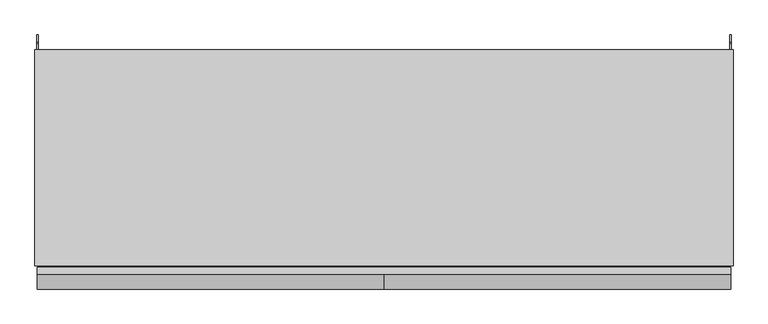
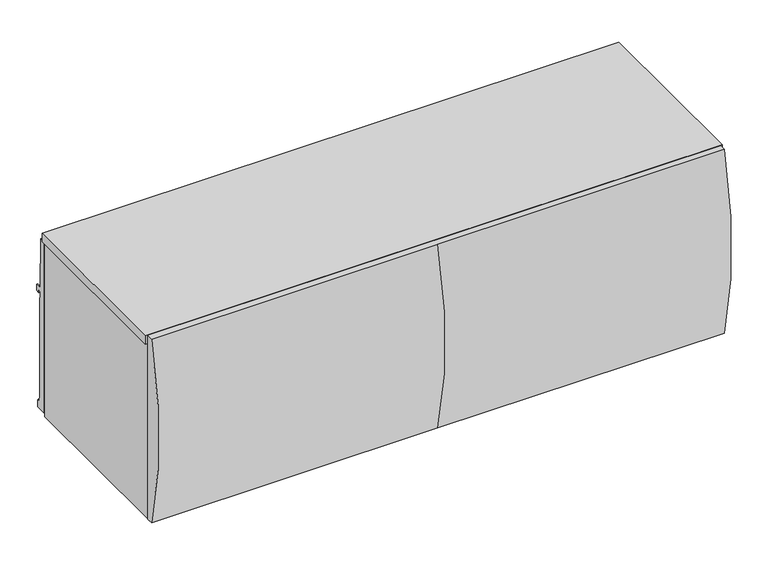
"""IFC4 building model written with IfcOpenShell, lengths in millimetres: furniture geometry, Steelcase - Universal Storage - Over the Case Bin - Radius Front : For Montage - 48W."""

import ifcopenshell
import ifcopenshell.guid

model = None  # the IFC model being written
_history = None  # IfcOwnerHistory: only IFC2X3 demands one
_inside = {}  # id of a spatial element -> (the spatial element, [elements in it])
_under = {}  # id of a project, library or spatial element -> (it, [spatial elements below it])
_declared = {}  # id of a project -> (the project, [libraries it declares])
_typed = {}  # id of a type object -> (the type object, [elements of that type])
_made_of = {}  # id of a material, layer set ... -> (it, [elements and type objects made of it])


def new_model(schema):
    """Start an empty IFC model of exactly this schema.

    Asked for "IFC4X3", IfcOpenShell would pick the latest addendum, in which some entities
    have other attributes; the version numbers below select the first issue.
    IFC2X3 requires an IfcOwnerHistory on every rooted entity: one is made here for all.
    """
    global model, _history
    if schema == "IFC4X3":
        model = ifcopenshell.file(schema_version=(4, 3, 0, 0))
    else:
        model = ifcopenshell.file(schema=schema)
    _inside.clear()
    _under.clear()
    _declared.clear()
    _typed.clear()
    _made_of.clear()
    _history = None
    if model.schema == "IFC2X3":
        org = make("IfcOrganization", Name="unknown")
        user = make(
            "IfcPersonAndOrganization",
            ThePerson=make("IfcPerson", FamilyName="unknown"),
            TheOrganization=org,
        )
        app = make(
            "IfcApplication",
            ApplicationDeveloper=org,
            Version="unknown",
            ApplicationFullName="unknown",
            ApplicationIdentifier="unknown",
        )
        _history = make(
            "IfcOwnerHistory",
            OwningUser=user,
            OwningApplication=app,
            ChangeAction="ADDED",
            CreationDate=0,
        )
    return model


def make(cls, **values):
    """One entity of the class cls with the attributes given. An attribute that is None is left unset."""
    return model.create_entity(
        cls, **{name: value for name, value in values.items() if value is not None}
    )


def rooted(cls, **values):
    """An entity with a GlobalId (a new one), such as an element, a storey or a relation."""
    return make(cls, GlobalId=ifcopenshell.guid.new(), OwnerHistory=_history, **values)


def si_unit(unit_type, name, prefix=None):
    """IfcSIUnit, for example si_unit("LENGTHUNIT", "METRE", prefix="MILLI")."""
    return make("IfcSIUnit", UnitType=unit_type, Prefix=prefix, Name=name)


def assignment(units):
    """IfcUnitAssignment: the units of a project."""
    return None if units is None else make("IfcUnitAssignment", Units=units)


def point(xyz):
    """IfcCartesianPoint."""
    return None if xyz is None else make("IfcCartesianPoint", Coordinates=xyz)


def direction(xyz):
    """IfcDirection."""
    return None if xyz is None else make("IfcDirection", DirectionRatios=xyz)


def frame(location, z_axis=None, x_axis=None):
    """IfcAxis2Placement3D, a coordinate frame: its origin and axes. An axis left out is left unset."""
    return make(
        "IfcAxis2Placement3D",
        Location=point(location),
        Axis=direction(z_axis),
        RefDirection=direction(x_axis),
    )


def origin():
    """The frame at (0, 0, 0) with its axes left unset."""
    return frame((0.0, 0.0, 0.0))


def place(relative_to, where):
    """IfcLocalPlacement: puts the frame where relative to a parent placement (None: the world)."""
    return make(
        "IfcLocalPlacement", PlacementRelTo=relative_to, RelativePlacement=where
    )


def context(
    kind, dimensions, precision=None, world=None, true_north=None, identifier=None
):
    """IfcGeometricRepresentationContext, for example the 3D "Model" context."""
    return make(
        "IfcGeometricRepresentationContext",
        ContextIdentifier=identifier,
        ContextType=kind,
        CoordinateSpaceDimension=dimensions,
        Precision=precision,
        WorldCoordinateSystem=world,
        TrueNorth=true_north,
    )


def project(units=None, contexts=None):
    """IfcProject with its units and contexts."""
    return rooted(
        "IfcProject",
        Name="project",
        RepresentationContexts=contexts,
        UnitsInContext=assignment(units),
    )


def spatial(cls, under=None, at=None, **own):
    """A site, building, storey or space (cls), placed at a placement, below another one or the project."""
    s = rooted(cls, ObjectPlacement=at, **own)
    if under is not None:
        _under.setdefault(under.id(), (under, []))[1].append(s)
    return s


def polyline(points):
    """IfcPolyline through the points."""
    return make("IfcPolyline", Points=[point(p) for p in points])


def circle_curve(where, radius):
    """IfcCircle in the frame where."""
    return make("IfcCircle", Position=where, Radius=radius)


def outline(outer, holes=None, kind="AREA"):
    """IfcArbitraryClosedProfileDef: a profile drawn as a closed curve; with holes, ...WithVoids."""
    if holes is None:
        return make("IfcArbitraryClosedProfileDef", ProfileType=kind, OuterCurve=outer)
    return make(
        "IfcArbitraryProfileDefWithVoids",
        ProfileType=kind,
        OuterCurve=outer,
        InnerCurves=holes,
    )


def extrude(swept, where, along, depth):
    """IfcExtrudedAreaSolid: the profile swept, set in the frame where, extruded along a direction by depth."""
    return make(
        "IfcExtrudedAreaSolid",
        SweptArea=swept,
        Position=where,
        ExtrudedDirection=direction(along),
        Depth=depth,
    )


def shape(context_of_items, identifier, shape_type, items):
    """IfcShapeRepresentation: the items that make up one representation, for example the "Body"."""
    return make(
        "IfcShapeRepresentation",
        ContextOfItems=context_of_items,
        RepresentationIdentifier=identifier,
        RepresentationType=shape_type,
        Items=items,
    )


def source(mapping_origin, context_of_items, identifier, shape_type, items):
    """IfcRepresentationMap: a shape defined once, which mapped items show again and again."""
    return make(
        "IfcRepresentationMap",
        MappingOrigin=mapping_origin,
        MappedRepresentation=shape(context_of_items, identifier, shape_type, items),
    )


def transform(
    local_origin,
    x_axis=None,
    y_axis=None,
    z_axis=None,
    scale=None,
    scale2=None,
    scale3=None,
    uniform=True,
):
    """IfcCartesianTransformationOperator3D, or its non-uniform kind. x_axis, y_axis, z_axis: its Axis1, 2, 3."""
    if uniform:
        return make(
            "IfcCartesianTransformationOperator3D",
            Axis1=direction(x_axis),
            Axis2=direction(y_axis),
            LocalOrigin=point(local_origin),
            Scale=scale,
            Axis3=direction(z_axis),
        )
    return make(
        "IfcCartesianTransformationOperator3DnonUniform",
        Axis1=direction(x_axis),
        Axis2=direction(y_axis),
        LocalOrigin=point(local_origin),
        Scale=scale,
        Axis3=direction(z_axis),
        Scale2=scale2,
        Scale3=scale3,
    )


def mapped(mapping_source, mapping_target):
    """IfcMappedItem: shows the shape of a source again, moved by a transform."""
    return make(
        "IfcMappedItem", MappingSource=mapping_source, MappingTarget=mapping_target
    )


def made_of(thing, what):
    """Note that an element or type object is made of a material, layer set ...; save() writes the relation."""
    if what is not None:
        _made_of.setdefault(what.id(), (what, []))[1].append(thing)
    return thing


def element(
    cls,
    number,
    at=None,
    inside=None,
    cuts=None,
    type_object=None,
    material=None,
    context=None,
    identifier="Body",
    shape_type=None,
    held_by="IfcProductDefinitionShape",
    body=None,
    shapes=None,
    **own,
):
    """One element of the class cls, such as IfcWall. Its Tag is "e" and its number.

    at: its placement. inside: the storey or other place that contains it. cuts: it is an
    opening in that element (IfcRelVoidsElement). A single representation is given by context,
    identifier, shape_type and body (its items); several are given by shapes. held_by: the class
    of the entity that holds the representations. save() writes the other relations.
    """
    e = rooted(cls, Tag="e%d" % number, ObjectPlacement=at, **own)
    if body is not None:
        shapes = [shape(context, identifier, shape_type, body)]
    if shapes is not None:
        e.Representation = make(held_by, Representations=shapes)
    if inside is not None:
        _inside.setdefault(inside.id(), (inside, []))[1].append(e)
    if cuts is not None:
        rooted(
            "IfcRelVoidsElement", RelatingBuildingElement=cuts, RelatedOpeningElement=e
        )
    if type_object is not None:
        _typed.setdefault(type_object.id(), (type_object, []))[1].append(e)
    return made_of(e, material)


def aggregate(whole, parts):
    """IfcRelAggregates: a whole, such as a stair, and the parts it consists of."""
    return rooted("IfcRelAggregates", RelatingObject=whole, RelatedObjects=parts)


def save(model, path):
    """Write the relations noted so far, then the file.

    IfcRelAggregates (storeys below a building ...), IfcRelContainedInSpatialStructure (elements
    in a storey), IfcRelDefinesByType, IfcRelAssociatesMaterial and IfcRelDeclares: one each for
    every whole, place, type object, material and project.
    """
    for whole, parts in _under.values():
        aggregate(whole, parts)
    for where, things in _inside.values():
        rooted(
            "IfcRelContainedInSpatialStructure",
            RelatedElements=things,
            RelatingStructure=where,
        )
    for kind, things in _typed.values():
        rooted("IfcRelDefinesByType", RelatedObjects=things, RelatingType=kind)
    for what, things in _made_of.values():
        rooted("IfcRelAssociatesMaterial", RelatedObjects=things, RelatingMaterial=what)
    for by, libraries in _declared.values():
        rooted("IfcRelDeclares", RelatingContext=by, RelatedDefinitions=libraries)
    model.write(path)


def plane_surface(at):
    """IfcPlane: the flat surface through the origin of the frame at, square to its z axis."""
    return make("IfcPlane", Position=at)


def cylinder_surface(at, radius):
    """IfcCylindricalSurface: all points at the distance radius from the z axis of the frame at."""
    return make("IfcCylindricalSurface", Position=at, Radius=radius)


def advanced_brep(points, edges, surfaces, faces):
    """IfcAdvancedBrep: a solid bounded by faces that lie on surfaces and meet in shared edges.

    An edge is (start, end): straight between two places in points (the first is 0);
    or (start, end, curve); or (start, end, curve, False) where it runs against its curve.
    A face is (place in surfaces, loops), or (place, loops, False) where it looks against
    its surface's normal. A loop lists edges by number (the first is 1), with a minus sign
    where the edge is run from its end to its start. The first loop is the outer one.
    """
    corners = [point(p) for p in points]
    vertices = [make("IfcVertexPoint", VertexGeometry=c) for c in corners]
    made = []
    for start, end, *more in edges:
        made.append(
            make(
                "IfcEdgeCurve",
                EdgeStart=vertices[start],
                EdgeEnd=vertices[end],
                EdgeGeometry=more[0] if more else make("IfcPolyline", Points=[corners[start], corners[end]]),
                SameSense=more[1] if len(more) > 1 else True,
            )
        )
    hull = []
    for where, loops, *sense in faces:
        bounds = []
        for j, loop in enumerate(loops):
            ring = [make("IfcOrientedEdge", EdgeElement=made[abs(k) - 1], Orientation=k > 0) for k in loop]
            bounds.append(
                make(
                    "IfcFaceOuterBound" if j == 0 else "IfcFaceBound",
                    Bound=make("IfcEdgeLoop", EdgeList=ring),
                    Orientation=True,
                )
            )
        hull.append(make("IfcAdvancedFace", Bounds=bounds, FaceSurface=surfaces[where], SameSense=sense[0] if sense else True))
    return make("IfcAdvancedBrep", Outer=make("IfcClosedShell", CfsFaces=hull))


def furniture_81997182(model_context):
    return source(origin(), model_context, "Body", "SolidModel", [
        advanced_brep(
        [(1214.7703, -393.0769518, 1677.2612846), (1214.7703, -393.0769518, 1266.8226746), (1214.7703, -379.476, 1266.8226746), (1214.7703, -379.476, 1677.2612846), (609.6, -393.0769518, 1677.2612846), (609.6, -393.0769518, 1266.8226746), (4.4448587, -393.0769518, 1266.8226746), (4.4448587, -379.476, 1266.8226746), (4.4448587, -379.476, 1677.2612846), (4.4448587, -393.0769518, 1677.2612846)],
        [
            (0, 1, circle_curve(frame((1214.7703, 352.6331971, 1472.0419796), z_axis=(1.0, 0.0, 0.0), x_axis=(0.0, 1.0, 0.0)), 773.4329895)),
            (1, 2),
            (2, 3),
            (3, 0),
            (0, 4),
            (4, 5, circle_curve(frame((609.6, 352.6331971, 1472.0419796), z_axis=(1.0, 0.0, 0.0), x_axis=(0.0, 1.0, 0.0)), 773.4329895)),
            (5, 1),
            (5, 6),
            (6, 7),
            (7, 2),
            (7, 8),
            (8, 3),
            (8, 9),
            (9, 4),
            (6, 9, circle_curve(frame((4.4448587, 352.6331971, 1472.0419796), z_axis=(-1.0, 0.0, 0.0), x_axis=(0.0, 1.0, 0.0)), 773.4329895)),
        ],
        [
            plane_surface(frame((1214.7703, 1126.0661866, 1472.0419796), z_axis=(1.0, 0.0, 0.0), x_axis=(0.0, 0.0, 1.0))),
            cylinder_surface(frame((609.6, 352.6331971, 1472.0419796), z_axis=(1.0, 0.0, 0.0), x_axis=(0.0, 1.0, 0.0)), 773.4329895),
            plane_surface(frame((1214.7703, -393.0769518, 1266.8226746), z_axis=(0.0, 0.0, -1.0), x_axis=(-1.0, 0.0, 0.0))),
            plane_surface(frame((1214.7703, -379.476, 1266.8226746), z_axis=(0.0, 1.0, 0.0), x_axis=(-1.0, 0.0, 0.0))),
            plane_surface(frame((1214.7703, -379.476, 1677.2612846), z_axis=(0.0, 0.0, 1.0), x_axis=(-1.0, 0.0, 0.0))),
            plane_surface(frame((4.4448587, 1126.0661866, 1472.0419796), z_axis=(-1.0, 0.0, 0.0), x_axis=(0.0, 0.0, -1.0))),
            cylinder_surface(frame((4.4448587, 352.6331971, 1472.0419796), z_axis=(1.0, 0.0, 0.0), x_axis=(0.0, 1.0, 0.0)), 773.4329895),
        ],
        [
            (0, [[1, 2, 3, 4]]),
            (1, [[-1, 5, 6, 7]]),
            (2, [[-2, -7, 8, 9, 10]]),
            (3, [[-3, -10, 11, 12]]),
            (4, [[-4, -12, 13, 14, -5]]),
            (5, [[-13, -11, -9, 15]]),
            (6, [[-15, -8, -6, -14]]),
        ],
    ),
        extrude(outline(polyline([(0.0, 1657.096), (10.1677703, 1657.096), (13.3857995, 1545.8185744), (26.0095997, 1545.8185744), (26.0095997, 1532.1025512), (17.5768, 1532.1025512), (17.5768, 1537.1064608), (13.3349998, 1537.1064608), (13.3349998, 1522.6538546), (14.2747998, 1522.6538546), (14.2747998, 1296.0858527), (17.2466001, 1296.0858527), (17.2466001, 1289.7358043), (22.5806007, 1289.7358043), (22.5806007, 1274.2164027), (0.0, 1274.2164027), (0.0, 1657.096)])), frame((1213.6882, 0.0, 0.0), z_axis=(1.0, 0.0, 0.0), x_axis=(0.0, 1.0, 0.0)), (0.0, 0.0, 1.0), 1.905),
        extrude(outline(polyline([(1219.2, -377.213238), (0.0, -377.213238), (0.0, 0.0), (1219.2, 0.0), (1219.2, -377.213238)])), frame((0.0, 0.0, 1657.35), z_axis=(0.0, 0.0, 1.0), x_axis=(1.0, 0.0, 0.0)), (0.0, 0.0, 1.0), 19.05),
        extrude(outline(polyline([(15.875, -377.213238), (5.5118, -377.213238), (5.5118, 0.0), (15.875, 0.0), (15.875, -377.213238)])), frame((0.0, 0.0, 1265.428), z_axis=(0.0, 0.0, 1.0), x_axis=(1.0, 0.0, 0.0)), (0.0, 0.0, 1.0), 391.6679457),
        extrude(outline(polyline([(1218.0568665, -377.213238), (1203.325, -377.213238), (1203.325, 0.0), (1218.0568665, 0.0), (1218.0568665, -377.213238)])), frame((0.0, 0.0, 1265.428), z_axis=(0.0, 0.0, 1.0), x_axis=(1.0, 0.0, 0.0)), (0.0, 0.0, 1.0), 391.6679457),
        extrude(outline(polyline([(0.0, 1657.096), (10.1677703, 1657.096), (13.3857995, 1545.8185744), (26.0095997, 1545.8185744), (26.0095997, 1532.1025512), (17.5768, 1532.1025512), (17.5768, 1537.1064608), (13.3349998, 1537.1064608), (13.3349998, 1522.6538546), (14.2747998, 1522.6538546), (14.2747998, 1296.0858527), (17.2466001, 1296.0858527), (17.2466001, 1289.7358043), (22.5806007, 1289.7358043), (22.5806007, 1274.2164027), (0.0, 1274.2164027), (0.0, 1657.096)])), frame((3.6068, 0.0, 0.0), z_axis=(1.0, 0.0, 0.0), x_axis=(0.0, 1.0, 0.0)), (0.0, 0.0, 1.0), 1.905),
        extrude(outline(polyline([(-35.4584098, 1372.819257), (-27.0763996, 1372.819257), (-27.0763996, 1360.1191601), (-33.4264117, 1360.1191601), (-33.4264117, 1323.1622589), (-27.0763996, 1323.1622589), (-27.0763996, 1265.428), (-35.4584098, 1265.428), (-35.4584098, 1293.054213), (-46.1263996, 1293.054213), (-46.1263996, 1268.1875622), (-59.9694137, 1268.1875622), (-59.9694137, 1294.8575912), (-332.8542818, 1294.8575912), (-332.8542818, 1268.1875622), (-377.3042823, 1268.1875622), (-377.3042823, 1310.7072052), (-35.4584098, 1310.7072052), (-35.4584098, 1372.819257)])), frame((15.875, 0.0, 0.0), z_axis=(1.0, 0.0, 0.0), x_axis=(0.0, 1.0, 0.0)), (0.0, 0.0, 1.0), 1187.45),
    ])


if __name__ == "__main__":
    model = new_model("IFC4")
    model_context = context("Model", 3, world=origin())
    ifc_project = project(units=[si_unit("LENGTHUNIT", "METRE", prefix="MILLI")], contexts=[model_context])
    site = spatial("IfcSite", under=ifc_project)
    building = spatial("IfcBuilding", under=site)
    placement = place(None, origin())
    furniture_shape = furniture_81997182(model_context)
    element("IfcFurniture", 1, ObjectType="Steelcase - Universal Storage - Over the Case Bin - Radius Front : For Montage - 48W", at=placement, inside=building, context=model_context, shape_type="MappedRepresentation", body=[
        mapped(furniture_shape, transform((0.0, 0.0, 0.0), x_axis=(1.0, 0.0, 0.0), y_axis=(0.0, 1.0, 0.0), z_axis=(0.0, 0.0, 1.0))),
    ])
    save(model, "model.ifc")
